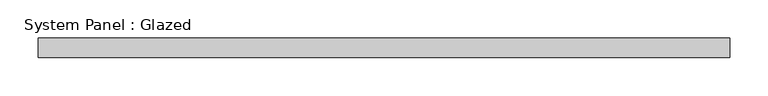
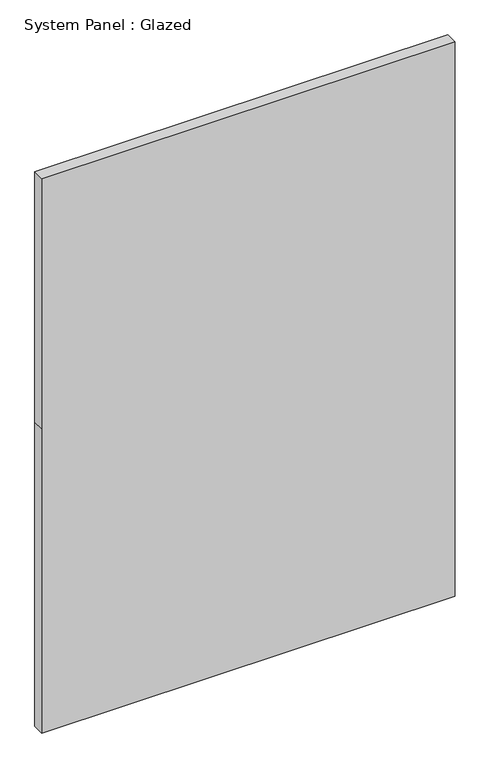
"""IFC4 building model written with IfcOpenShell, lengths in millimetres: plate geometry, System Panel : Glazed."""

from ifc_helpers import new_model, si_unit, frame, origin, place, context, project, spatial, polyline, outline, extrude, source, transform, mapped, element, save


def system_panel_glazed_4eb6c95a(model_context):
    return source(origin(), model_context, "Body", "SweptSolid", [
        extrude(outline(polyline([(0.0, -451.3791667), (0.0, 451.3791667), (702.2026365, 451.3791667), (1280.0526365, 451.3791667), (1280.0526365, -451.3791667), (702.2026365, -451.3791667), (0.0, -451.3791667)])), frame((0.0, -44.45, 0.0), z_axis=(0.0, 1.0, 0.0), x_axis=(0.0, 0.0, 1.0)), (0.0, 0.0, 1.0), 25.4),
    ])


if __name__ == "__main__":
    model = new_model("IFC4")
    model_context = context("Model", 3, world=origin())
    ifc_project = project(units=[si_unit("LENGTHUNIT", "METRE", prefix="MILLI")], contexts=[model_context])
    site = spatial("IfcSite", under=ifc_project)
    building = spatial("IfcBuilding", under=site)
    placement = place(None, origin())
    system_panel_glazed_shape = system_panel_glazed_4eb6c95a(model_context)
    element("IfcPlate", 1, ObjectType="System Panel : Glazed", at=placement, inside=building, context=model_context, shape_type="MappedRepresentation", body=[
        mapped(system_panel_glazed_shape, transform((0.0, 0.0, 0.0), x_axis=(1.0, 0.0, 0.0), y_axis=(0.0, 1.0, 0.0), z_axis=(0.0, 0.0, 1.0))),
    ])
    save(model, "model.ifc")
